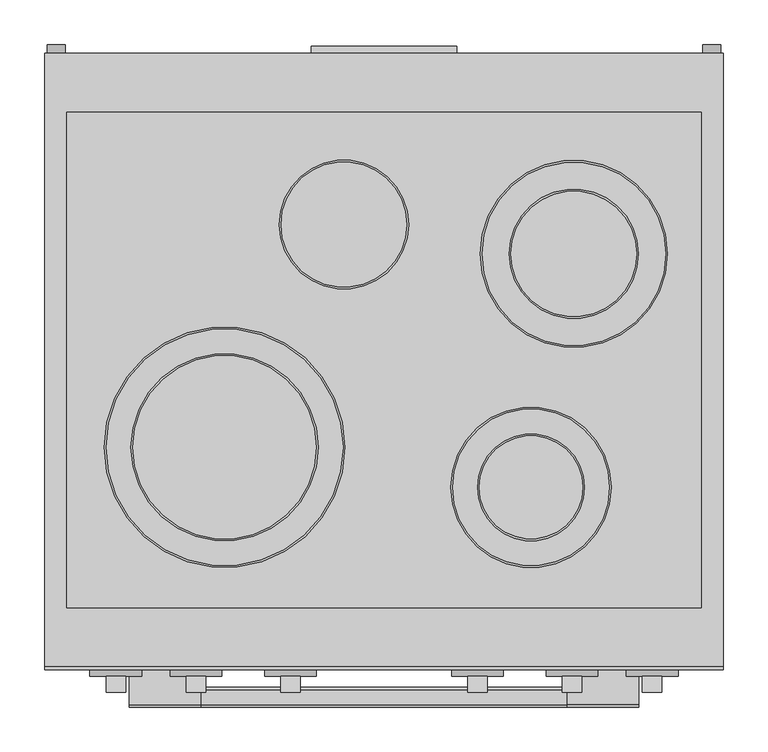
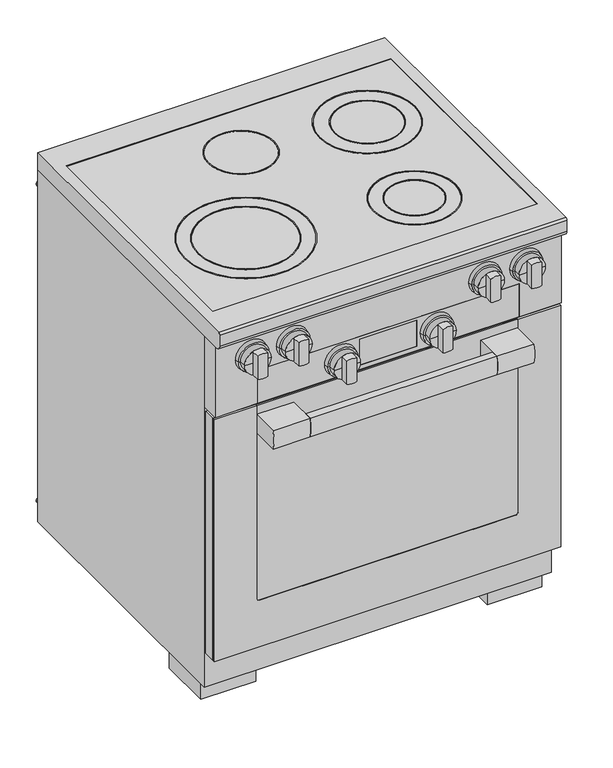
"""IFC4 building model written with IfcOpenShell, lengths in millimetres: proxy geometry, 11793350_USA_HR1421-3_EDST-CLST : 25142180_USA_11793350_HR1421-3_EDST-CLST."""

from ifc_helpers import new_model, si_unit, point, frame, frame_2d, origin, origin_with_axes, place, context, project, spatial, polyline, circle_curve, trimmed, segment, composite_curve, outline, extrude, faceted_brep, source, transform, mapped, element, save
from ifc_brep_helpers import plane_surface, cylinder_surface, revolved_surface, advanced_brep


def specialty_equipment_7bc652a0(model_context):
    return source(origin(), model_context, "Body", "SolidModel", [
        extrude(outline(composite_curve([segment(polyline([(-714.0, 624.0), (-731.0, 624.0)]), True, "CONTINUOUS"), segment(trimmed(circle_curve(frame_2d((-655.4583333, 645.5)), 78.5416667), [point((-731.0, 624.0))], [point((-731.0, 667.0))], False, "CARTESIAN"), True, "CONTINUOUS"), segment(polyline([(-731.0, 667.0), (-714.0, 667.0)]), True, "CONTINUOUS"), segment(trimmed(circle_curve(frame_2d((-789.5416667, 645.5)), 78.5416667), [point((-714.0, 667.0))], [point((-714.0, 624.0))], False, "CARTESIAN"), True, "CONTINUOUS")], self_intersect=False)), frame((-205.0, 0.0, 0.0), z_axis=(1.0, 0.0, 0.0), x_axis=(0.0, 1.0, 0.0)), (0.0, 0.0, 1.0), 410.0),
        extrude(outline(composite_curve([segment(polyline([(-731.0, 667.0), (-668.7, 667.0), (-668.7, 624.0), (-731.0, 624.0)]), True, "CONTINUOUS"), segment(trimmed(circle_curve(frame_2d((-655.4583333, 645.5)), 78.5416667), [point((-731.0, 624.0))], [point((-731.0, 667.0))], False, "CARTESIAN"), True, "CONTINUOUS")], self_intersect=False)), frame((205.0, 0.0, 0.0), z_axis=(1.0, 0.0, 0.0), x_axis=(0.0, 1.0, 0.0)), (0.0, 0.0, 1.0), 81.0),
        extrude(outline(composite_curve([segment(polyline([(-668.7, 667.0), (-668.7, 624.0), (-731.0, 624.0)]), True, "CONTINUOUS"), segment(trimmed(circle_curve(frame_2d((-655.4583333, 645.5)), 78.5416667), [point((-731.0, 624.0))], [point((-731.0, 667.0))], False, "CARTESIAN"), True, "CONTINUOUS"), segment(polyline([(-731.0, 667.0), (-668.7, 667.0)]), True, "CONTINUOUS")], self_intersect=False)), frame((-286.0, 0.0, 0.0), z_axis=(1.0, 0.0, 0.0), x_axis=(0.0, 1.0, 0.0)), (0.0, 0.0, 1.0), 81.0),
        extrude(outline(polyline([(-380.0, -638.0), (380.0, -638.0), (380.0, -664.7), (-380.0, -664.7), (-380.0, -638.0)])), frame((0.0, 0.0, 127.0), z_axis=(0.0, 0.0, 1.0), x_axis=(1.0, 0.0, 0.0)), (0.0, 0.0, 1.0), 561.0),
        extrude(outline(polyline([(-379.0, -664.7), (379.0, -664.7), (379.0, -668.7), (-379.0, -668.7), (-379.0, -664.7)])), frame((0.0, 0.0, 128.0), z_axis=(0.0, 0.0, 1.0), x_axis=(1.0, 0.0, 0.0)), (0.0, 0.0, 1.0), 559.0),
        advanced_brep(
        [(287.0, -664.7, 688.0), (380.0, -664.7, 688.0), (380.0, -664.7, 127.0), (-380.0, -664.7, 127.0), (-380.0, -664.7, 688.0), (-287.0, -664.7, 688.0), (-287.0, -664.7, 687.0), (-379.0, -664.7, 687.0), (-379.0, -664.7, 128.0), (379.0, -664.7, 128.0), (379.0, -664.7, 687.0), (287.0, -664.7, 687.0), (-287.0, -670.0, 688.0), (-380.0, -670.0, 688.0), (-380.0, -670.0, 127.0), (380.0, -670.0, 127.0), (380.0, -670.0, 688.0), (287.0, -670.0, 688.0), (287.0, -670.0, 241.0), (281.0, -670.0, 235.0), (-281.0, -670.0, 235.0), (-287.0, -670.0, 241.0), (-287.0, -668.7, 241.0), (-287.0, -668.7, 687.0), (281.0, -668.7, 235.0), (-281.0, -668.7, 235.0), (287.0, -668.7, 687.0), (287.0, -668.7, 241.0), (379.0, -668.7, 687.0), (379.0, -668.7, 128.0), (-379.0, -668.7, 128.0), (-379.0, -668.7, 687.0)],
        [
            (0, 1),
            (1, 2),
            (2, 3),
            (3, 4),
            (4, 5),
            (5, 6),
            (6, 7),
            (7, 8),
            (8, 9),
            (9, 10),
            (10, 11),
            (11, 0),
            (12, 13),
            (13, 14),
            (14, 15),
            (15, 16),
            (16, 17),
            (17, 18),
            (18, 19, circle_curve(frame((281.0, -670.0, 241.0), z_axis=(0.0, 1.0, 0.0), x_axis=(-1.0, 0.0, 0.0)), 6.0)),
            (19, 20),
            (20, 21, circle_curve(frame((-281.0, -670.0, 241.0), z_axis=(0.0, 1.0, 0.0), x_axis=(-1.0, 0.0, 0.0)), 6.0)),
            (21, 12),
            (21, 22),
            (22, 23),
            (23, 6),
            (5, 12),
            (19, 24),
            (24, 25),
            (25, 20),
            (17, 0),
            (11, 26),
            (26, 27),
            (27, 18),
            (16, 1),
            (15, 2),
            (14, 3),
            (13, 4),
            (25, 22, circle_curve(frame((-281.0, -668.7, 241.0), z_axis=(0.0, 1.0, 0.0), x_axis=(-1.0, 0.0, 0.0)), 6.0)),
            (27, 24, circle_curve(frame((281.0, -668.7, 241.0), z_axis=(0.0, 1.0, 0.0), x_axis=(-1.0, 0.0, 0.0)), 6.0)),
            (28, 29),
            (29, 30),
            (30, 31),
            (31, 23),
            (26, 28),
            (28, 10),
            (9, 29),
            (8, 30),
            (7, 31),
        ],
        [
            plane_surface(frame((-287.0, -664.7, 241.0), z_axis=(0.0, 1.0, 0.0), x_axis=(0.0, 0.0, -1.0))),
            plane_surface(frame((-287.0, -670.0, 241.0), z_axis=(0.0, -1.0, 0.0), x_axis=(0.0, 0.0, 1.0))),
            plane_surface(frame((-287.0, -664.7, 688.0), z_axis=(1.0, 0.0, 0.0), x_axis=(0.0, -1.0, 0.0))),
            plane_surface(frame((-281.0, -664.7, 235.0), z_axis=(0.0, 0.0, 1.0), x_axis=(0.0, -1.0, 0.0))),
            plane_surface(frame((287.0, -664.7, 241.0), z_axis=(-1.0, 0.0, 0.0), x_axis=(0.0, -1.0, 0.0))),
            plane_surface(frame((287.0, -664.7, 688.0), z_axis=(0.0, 0.0, 1.0), x_axis=(0.0, -1.0, 0.0))),
            plane_surface(frame((380.0, -664.7, 688.0), z_axis=(1.0, 0.0, 0.0), x_axis=(0.0, -1.0, 0.0))),
            plane_surface(frame((380.0, -664.7, 127.0), z_axis=(0.0, 0.0, -1.0), x_axis=(0.0, -1.0, 0.0))),
            plane_surface(frame((-380.0, -664.7, 127.0), z_axis=(-1.0, 0.0, 0.0), x_axis=(0.0, -1.0, 0.0))),
            plane_surface(frame((-380.0, -664.7, 688.0), z_axis=(0.0, 0.0, 1.0), x_axis=(0.0, -1.0, 0.0))),
            revolved_surface(polyline([(-287.0, -670.0, 241.0), (-287.0, -668.7, 241.0)]), (-281.0, -670.0, 241.0), (0.0, -1.0, 0.0)),
            revolved_surface(polyline([(275.0, -670.0, 241.0), (275.0, -668.7, 241.0)]), (281.0, -670.0, 241.0), (0.0, -1.0, 0.0)),
            plane_surface(frame((379.0, -668.7, 687.0), z_axis=(0.0, 1.0, 0.0), x_axis=(0.0, 0.0, 1.0))),
            plane_surface(frame((379.0, -664.7, 687.0), z_axis=(-1.0, 0.0, 0.0), x_axis=(0.0, -1.0, 0.0))),
            plane_surface(frame((379.0, -664.7, 128.0), z_axis=(0.0, 0.0, 1.0), x_axis=(0.0, -1.0, 0.0))),
            plane_surface(frame((-379.0, -664.7, 128.0), z_axis=(1.0, 0.0, 0.0), x_axis=(0.0, -1.0, 0.0))),
            plane_surface(frame((-379.0, -664.7, 687.0), z_axis=(0.0, 0.0, -1.0), x_axis=(0.0, -1.0, 0.0))),
        ],
        [
            (0, [[1, 2, 3, 4, 5, 6, 7, 8, 9, 10, 11, 12]]),
            (1, [[13, 14, 15, 16, 17, 18, 19, 20, 21, 22]]),
            (2, [[-22, 23, 24, 25, -6, 26]]),
            (3, [[-20, 27, 28, 29]]),
            (4, [[-18, 30, -12, 31, 32, 33]]),
            (5, [[-1, -30, -17, 34]]),
            (6, [[-2, -34, -16, 35]]),
            (7, [[-3, -35, -15, 36]]),
            (8, [[-4, -36, -14, 37]]),
            (9, [[-5, -37, -13, -26]]),
            (10, [[-21, -29, 38, -23]]),
            (11, [[-19, -33, 39, -27]]),
            (12, [[40, 41, 42, 43, -24, -38, -28, -39, -32, 44]]),
            (13, [[-40, 45, -10, 46]]),
            (14, [[-41, -46, -9, 47]]),
            (15, [[-42, -47, -8, 48]]),
            (16, [[-45, -44, -31, -11]]),
            (16, [[-48, -7, -25, -43]]),
        ],
    ),
        extrude(outline(polyline([(-351.0, -617.0), (351.0, -617.0), (351.0, -638.0), (-351.0, -638.0), (-351.0, -617.0)])), frame((0.0, 0.0, 133.0), z_axis=(0.0, 0.0, 1.0), x_axis=(1.0, 0.0, 0.0)), (0.0, 0.0, 1.0), 550.0),
        extrude(outline(polyline([(356.0, -66.0), (356.0, -622.0), (-356.0, -622.0), (-356.0, -66.0), (356.0, -66.0)])), frame((0.0, 0.0, 896.4), z_axis=(0.0, 0.0, 1.0), x_axis=(1.0, 0.0, 0.0)), (0.0, 0.0, 1.0), 4.0),
        advanced_brep(
        [(381.0, 0.0, 902.0), (381.0, -688.0, 902.0), (381.0, -692.0, 898.0), (381.0, -692.0, 872.0), (381.0, -682.0, 862.0), (381.0, 0.0, 862.0), (-381.0, 0.0, 902.0), (-381.0, 0.0, 862.0), (-381.0, -682.0, 862.0), (-381.0, -692.0, 872.0), (-381.0, -692.0, 898.0), (-381.0, -688.0, 902.0), (-356.0, -66.0, 902.0), (356.0, -66.0, 902.0), (356.0, -622.0, 902.0), (-356.0, -622.0, 902.0), (356.0, -66.0, 896.4), (-356.0, -66.0, 896.4), (-356.0, -622.0, 896.4), (356.0, -622.0, 896.4)],
        [
            (0, 1),
            (1, 2, circle_curve(frame((381.0, -688.0, 898.0), z_axis=(1.0, 0.0, 0.0), x_axis=(0.0, 0.0, 1.0)), 4.0)),
            (2, 3),
            (3, 4, circle_curve(frame((381.0, -682.0, 872.0), z_axis=(1.0, 0.0, 0.0), x_axis=(0.0, 0.0, 1.0)), 10.0)),
            (4, 5),
            (5, 0),
            (6, 7),
            (7, 8),
            (8, 9, circle_curve(frame((-381.0, -682.0, 872.0), z_axis=(-1.0, 0.0, 0.0), x_axis=(0.0, 0.0, 1.0)), 10.0)),
            (9, 10),
            (10, 11, circle_curve(frame((-381.0, -688.0, 898.0), z_axis=(-1.0, 0.0, 0.0), x_axis=(0.0, 0.0, 1.0)), 4.0)),
            (11, 6),
            (0, 6),
            (11, 1),
            (12, 13),
            (13, 14),
            (14, 15),
            (15, 12),
            (10, 2),
            (9, 3),
            (8, 4),
            (7, 5),
            (16, 17),
            (17, 18),
            (18, 19),
            (19, 16),
            (16, 13),
            (12, 17),
            (15, 18),
            (14, 19),
        ],
        [
            plane_surface(frame((381.0, -688.0, 902.0), z_axis=(1.0, 0.0, 0.0), x_axis=(0.0, -1.0, 0.0))),
            plane_surface(frame((-381.0, -688.0, 902.0), z_axis=(-1.0, 0.0, 0.0), x_axis=(0.0, 1.0, 0.0))),
            plane_surface(frame((381.0, 0.0, 902.0), z_axis=(0.0, 0.0, 1.0), x_axis=(-1.0, 0.0, 0.0))),
            cylinder_surface(frame((-381.0, -688.0, 898.0), z_axis=(1.0, 0.0, 0.0), x_axis=(0.0, 0.0, 1.0)), 4.0),
            plane_surface(frame((381.0, -692.0, 898.0), z_axis=(0.0, -1.0, 0.0), x_axis=(-1.0, 0.0, 0.0))),
            cylinder_surface(frame((-381.0, -682.0, 872.0), z_axis=(1.0, 0.0, 0.0), x_axis=(0.0, 0.0, 1.0)), 10.0),
            plane_surface(frame((381.0, -682.0, 862.0), z_axis=(0.0, 0.0, -1.0), x_axis=(-1.0, 0.0, 0.0))),
            plane_surface(frame((381.0, 0.0, 862.0), z_axis=(0.0, 1.0, 0.0), x_axis=(-1.0, 0.0, 0.0))),
            plane_surface(frame((-356.0, -66.0, 896.4), z_axis=(0.0, 0.0, 1.0), x_axis=(1.0, 0.0, 0.0))),
            plane_surface(frame((356.0, -66.0, 902.0), z_axis=(0.0, -1.0, 0.0), x_axis=(0.0, 0.0, -1.0))),
            plane_surface(frame((-356.0, -66.0, 902.0), z_axis=(1.0, 0.0, 0.0), x_axis=(0.0, 0.0, -1.0))),
            plane_surface(frame((-356.0, -622.0, 902.0), z_axis=(0.0, 1.0, 0.0), x_axis=(0.0, 0.0, -1.0))),
            plane_surface(frame((356.0, -622.0, 902.0), z_axis=(-1.0, 0.0, 0.0), x_axis=(0.0, 0.0, -1.0))),
        ],
        [
            (0, [[1, 2, 3, 4, 5, 6]]),
            (1, [[7, 8, 9, 10, 11, 12]]),
            (2, [[-1, 13, -12, 14], [15, 16, 17, 18]]),
            (3, [[-2, -14, -11, 19]]),
            (4, [[-3, -19, -10, 20]]),
            (5, [[-4, -20, -9, 21]]),
            (6, [[-5, -21, -8, 22]]),
            (7, [[-6, -22, -7, -13]]),
            (8, [[23, 24, 25, 26]]),
            (9, [[-23, 27, -15, 28]]),
            (10, [[-24, -28, -18, 29]]),
            (11, [[-25, -29, -17, 30]]),
            (12, [[-26, -30, -16, -27]]),
        ],
    ),
        extrude(outline(composite_curve([segment(trimmed(circle_curve(frame_2d((-45.0, -192.0)), 72.5), [point((27.5, -192.0))], [point((-117.5, -192.0))], False, "CARTESIAN"), True, "CONTINUOUS"), segment(trimmed(circle_curve(frame_2d((-45.0, -192.0)), 72.5), [point((-117.5, -192.0))], [point((27.5, -192.0))], False, "CARTESIAN"), True, "CONTINUOUS")], self_intersect=False), holes=[composite_curve([segment(trimmed(circle_curve(frame_2d((-45.0, -192.0)), 70.5), [point((25.5, -192.0))], [point((-115.5, -192.0))], True, "CARTESIAN"), True, "CONTINUOUS"), segment(trimmed(circle_curve(frame_2d((-45.0, -192.0)), 70.5), [point((-115.5, -192.0))], [point((25.5, -192.0))], True, "CARTESIAN"), True, "CONTINUOUS")], self_intersect=False)]), frame((0.0, 0.0, 900.4), z_axis=(0.0, 0.0, 1.0), x_axis=(1.0, 0.0, 0.0)), (0.0, 0.0, 1.0), 1.0),
        extrude(outline(composite_curve([segment(trimmed(circle_curve(frame_2d((213.0, -225.0)), 105.0), [point((318.0, -225.0))], [point((108.0, -225.0))], False, "CARTESIAN"), True, "CONTINUOUS"), segment(trimmed(circle_curve(frame_2d((213.0, -225.0)), 105.0), [point((108.0, -225.0))], [point((318.0, -225.0))], False, "CARTESIAN"), True, "CONTINUOUS")], self_intersect=False), holes=[composite_curve([segment(trimmed(circle_curve(frame_2d((213.0, -225.0)), 103.0), [point((316.0, -225.0))], [point((110.0, -225.0))], True, "CARTESIAN"), True, "CONTINUOUS"), segment(trimmed(circle_curve(frame_2d((213.0, -225.0)), 103.0), [point((110.0, -225.0))], [point((316.0, -225.0))], True, "CARTESIAN"), True, "CONTINUOUS")], self_intersect=False)]), frame((0.0, 0.0, 900.4), z_axis=(0.0, 0.0, 1.0), x_axis=(1.0, 0.0, 0.0)), (0.0, 0.0, 1.0), 1.0),
        extrude(outline(composite_curve([segment(trimmed(circle_curve(frame_2d((165.0, -487.0)), 90.0), [point((255.0, -487.0))], [point((75.0, -487.0))], False, "CARTESIAN"), True, "CONTINUOUS"), segment(trimmed(circle_curve(frame_2d((165.0, -487.0)), 90.0), [point((75.0, -487.0))], [point((255.0, -487.0))], False, "CARTESIAN"), True, "CONTINUOUS")], self_intersect=False), holes=[composite_curve([segment(trimmed(circle_curve(frame_2d((165.0, -487.0)), 88.0), [point((253.0, -487.0))], [point((77.0, -487.0))], True, "CARTESIAN"), True, "CONTINUOUS"), segment(trimmed(circle_curve(frame_2d((165.0, -487.0)), 88.0), [point((77.0, -487.0))], [point((253.0, -487.0))], True, "CARTESIAN"), True, "CONTINUOUS")], self_intersect=False)]), frame((0.0, 0.0, 900.4), z_axis=(0.0, 0.0, 1.0), x_axis=(1.0, 0.0, 0.0)), (0.0, 0.0, 1.0), 1.0),
        extrude(outline(composite_curve([segment(trimmed(circle_curve(frame_2d((-179.0, -442.0)), 135.0), [point((-44.0, -442.0))], [point((-314.0, -442.0))], False, "CARTESIAN"), True, "CONTINUOUS"), segment(trimmed(circle_curve(frame_2d((-179.0, -442.0)), 135.0), [point((-314.0, -442.0))], [point((-44.0, -442.0))], False, "CARTESIAN"), True, "CONTINUOUS")], self_intersect=False), holes=[composite_curve([segment(trimmed(circle_curve(frame_2d((-179.0, -442.0)), 133.0), [point((-46.0, -442.0))], [point((-312.0, -442.0))], True, "CARTESIAN"), True, "CONTINUOUS"), segment(trimmed(circle_curve(frame_2d((-179.0, -442.0)), 133.0), [point((-312.0, -442.0))], [point((-46.0, -442.0))], True, "CARTESIAN"), True, "CONTINUOUS")], self_intersect=False)]), frame((0.0, 0.0, 900.4), z_axis=(0.0, 0.0, 1.0), x_axis=(1.0, 0.0, 0.0)), (0.0, 0.0, 1.0), 1.0),
        extrude(outline(composite_curve([segment(trimmed(circle_curve(frame_2d((-179.0, -442.0)), 105.0), [point((-74.0, -442.0))], [point((-284.0, -442.0))], False, "CARTESIAN"), True, "CONTINUOUS"), segment(trimmed(circle_curve(frame_2d((-179.0, -442.0)), 105.0), [point((-284.0, -442.0))], [point((-74.0, -442.0))], False, "CARTESIAN"), True, "CONTINUOUS")], self_intersect=False), holes=[composite_curve([segment(trimmed(circle_curve(frame_2d((-179.0, -442.0)), 103.0), [point((-76.0, -442.0))], [point((-282.0, -442.0))], True, "CARTESIAN"), True, "CONTINUOUS"), segment(trimmed(circle_curve(frame_2d((-179.0, -442.0)), 103.0), [point((-282.0, -442.0))], [point((-76.0, -442.0))], True, "CARTESIAN"), True, "CONTINUOUS")], self_intersect=False)]), frame((0.0, 0.0, 900.4), z_axis=(0.0, 0.0, 1.0), x_axis=(1.0, 0.0, 0.0)), (0.0, 0.0, 1.0), 1.0),
        extrude(outline(composite_curve([segment(trimmed(circle_curve(frame_2d((165.0, -487.0)), 60.0), [point((225.0, -487.0))], [point((105.0, -487.0))], False, "CARTESIAN"), True, "CONTINUOUS"), segment(trimmed(circle_curve(frame_2d((165.0, -487.0)), 60.0), [point((105.0, -487.0))], [point((225.0, -487.0))], False, "CARTESIAN"), True, "CONTINUOUS")], self_intersect=False), holes=[composite_curve([segment(trimmed(circle_curve(frame_2d((165.0, -487.0)), 58.0), [point((223.0, -487.0))], [point((107.0, -487.0))], True, "CARTESIAN"), True, "CONTINUOUS"), segment(trimmed(circle_curve(frame_2d((165.0, -487.0)), 58.0), [point((107.0, -487.0))], [point((223.0, -487.0))], True, "CARTESIAN"), True, "CONTINUOUS")], self_intersect=False)]), frame((0.0, 0.0, 900.4), z_axis=(0.0, 0.0, 1.0), x_axis=(1.0, 0.0, 0.0)), (0.0, 0.0, 1.0), 1.0),
        extrude(outline(composite_curve([segment(trimmed(circle_curve(frame_2d((213.0, -225.0)), 72.5), [point((285.5, -225.0))], [point((140.5, -225.0))], False, "CARTESIAN"), True, "CONTINUOUS"), segment(trimmed(circle_curve(frame_2d((213.0, -225.0)), 72.5), [point((140.5, -225.0))], [point((285.5, -225.0))], False, "CARTESIAN"), True, "CONTINUOUS")], self_intersect=False), holes=[composite_curve([segment(trimmed(circle_curve(frame_2d((213.0, -225.0)), 70.5), [point((283.5, -225.0))], [point((142.5, -225.0))], True, "CARTESIAN"), True, "CONTINUOUS"), segment(trimmed(circle_curve(frame_2d((213.0, -225.0)), 70.5), [point((142.5, -225.0))], [point((283.5, -225.0))], True, "CARTESIAN"), True, "CONTINUOUS")], self_intersect=False)]), frame((0.0, 0.0, 900.4), z_axis=(0.0, 0.0, 1.0), x_axis=(1.0, 0.0, 0.0)), (0.0, 0.0, 1.0), 1.0),
        extrude(outline(composite_curve([segment(polyline([(759.8328157, 94.0), (706.1671843, 94.0)]), True, "CONTINUOUS"), segment(trimmed(circle_curve(frame_2d((733.0, 105.0)), 29.0), [point((706.1671843, 94.0))], [point((706.1671843, 116.0))], False, "CARTESIAN"), True, "CONTINUOUS"), segment(polyline([(706.1671843, 116.0), (759.8328157, 116.0)]), True, "CONTINUOUS"), segment(trimmed(circle_curve(frame_2d((733.0, 105.0)), 29.0), [point((759.8328157, 116.0))], [point((759.8328157, 94.0))], False, "CARTESIAN"), True, "CONTINUOUS")], self_intersect=False)), frame((0.0, -717.0, 0.0), z_axis=(0.0, 1.0, 0.0), x_axis=(0.0, 0.0, 1.0)), (0.0, 0.0, 1.0), 18.0),
        extrude(outline(composite_curve([segment(polyline([(759.8328157, -116.0), (706.1671843, -116.0)]), True, "CONTINUOUS"), segment(trimmed(circle_curve(frame_2d((733.0, -105.0)), 29.0), [point((706.1671843, -116.0))], [point((706.1671843, -94.0))], False, "CARTESIAN"), True, "CONTINUOUS"), segment(polyline([(706.1671843, -94.0), (759.8328157, -94.0)]), True, "CONTINUOUS"), segment(trimmed(circle_curve(frame_2d((733.0, -105.0)), 29.0), [point((759.8328157, -94.0))], [point((759.8328157, -116.0))], False, "CARTESIAN"), True, "CONTINUOUS")], self_intersect=False)), frame((0.0, -717.0, 0.0), z_axis=(0.0, 1.0, 0.0), x_axis=(0.0, 0.0, 1.0)), (0.0, 0.0, 1.0), 18.0),
        advanced_brep(
        [(-105.0, -683.0, 733.0), (-76.0, -683.0, 733.0), (-134.0, -683.0, 733.0), (-134.0, -699.0, 733.0), (-76.0, -699.0, 733.0), (-105.0, -699.0, 733.0)],
        [
            (0, 1),
            (1, 2, circle_curve(frame((-105.0, -683.0, 733.0), z_axis=(0.0, 1.0, 0.0), x_axis=(1.0, 0.0, 0.0)), 29.0)),
            (2, 0),
            (2, 1, circle_curve(frame((-105.0, -683.0, 733.0), z_axis=(0.0, 1.0, 0.0), x_axis=(1.0, 0.0, 0.0)), 29.0)),
            (3, 4, circle_curve(frame((-105.0, -699.0, 733.0), z_axis=(0.0, -1.0, 0.0), x_axis=(1.0, 0.0, 0.0)), 29.0)),
            (4, 5),
            (5, 3),
            (4, 3, circle_curve(frame((-105.0, -699.0, 733.0), z_axis=(0.0, -1.0, 0.0), x_axis=(1.0, 0.0, 0.0)), 29.0)),
            (1, 4),
            (3, 2),
        ],
        [
            plane_surface(frame((-105.0, -683.0, 733.0), z_axis=(0.0, 1.0, 0.0), x_axis=(1.0, 0.0, 0.0))),
            plane_surface(frame((-105.0, -699.0, 733.0), z_axis=(0.0, -1.0, 0.0), x_axis=(1.0, 0.0, 0.0))),
            cylinder_surface(frame((-105.0, 751.3738435, 733.0), z_axis=(0.0, 1.0, 0.0), x_axis=(1.0, 0.0, 0.0)), 29.0),
        ],
        [
            (0, [[1, 2, 3]]),
            (0, [[-3, 4, -1]]),
            (1, [[5, 6, 7]]),
            (1, [[8, -7, -6]]),
            (2, [[-2, 9, -5, 10]]),
            (2, [[-4, -10, -8, -9]]),
        ],
    ),
        advanced_brep(
        [(105.0, -683.0, 733.0), (134.0, -683.0, 733.0), (76.0, -683.0, 733.0), (76.0, -699.0, 733.0), (134.0, -699.0, 733.0), (105.0, -699.0, 733.0)],
        [
            (0, 1),
            (1, 2, circle_curve(frame((105.0, -683.0, 733.0), z_axis=(0.0, 1.0, 0.0), x_axis=(1.0, 0.0, 0.0)), 29.0)),
            (2, 0),
            (2, 1, circle_curve(frame((105.0, -683.0, 733.0), z_axis=(0.0, 1.0, 0.0), x_axis=(1.0, 0.0, 0.0)), 29.0)),
            (3, 4, circle_curve(frame((105.0, -699.0, 733.0), z_axis=(0.0, -1.0, 0.0), x_axis=(1.0, 0.0, 0.0)), 29.0)),
            (4, 5),
            (5, 3),
            (4, 3, circle_curve(frame((105.0, -699.0, 733.0), z_axis=(0.0, -1.0, 0.0), x_axis=(1.0, 0.0, 0.0)), 29.0)),
            (1, 4),
            (3, 2),
        ],
        [
            plane_surface(frame((105.0, -683.0, 733.0), z_axis=(0.0, 1.0, 0.0), x_axis=(1.0, 0.0, 0.0))),
            plane_surface(frame((105.0, -699.0, 733.0), z_axis=(0.0, -1.0, 0.0), x_axis=(1.0, 0.0, 0.0))),
            cylinder_surface(frame((105.0, 751.3738435, 733.0), z_axis=(0.0, 1.0, 0.0), x_axis=(1.0, 0.0, 0.0)), 29.0),
        ],
        [
            (0, [[1, 2, 3]]),
            (0, [[-3, 4, -1]]),
            (1, [[5, 6, 7]]),
            (1, [[8, -7, -6]]),
            (2, [[-2, 9, -5, 10]]),
            (2, [[-4, -10, -8, -9]]),
        ],
    ),
        extrude(outline(composite_curve([segment(polyline([(839.8328157, -312.0), (786.1671843, -312.0)]), True, "CONTINUOUS"), segment(trimmed(circle_curve(frame_2d((813.0, -301.0)), 29.0), [point((786.1671843, -312.0))], [point((786.1671843, -290.0))], False, "CARTESIAN"), True, "CONTINUOUS"), segment(polyline([(786.1671843, -290.0), (839.8328157, -290.0)]), True, "CONTINUOUS"), segment(trimmed(circle_curve(frame_2d((813.0, -301.0)), 29.0), [point((839.8328157, -290.0))], [point((839.8328157, -312.0))], False, "CARTESIAN"), True, "CONTINUOUS")], self_intersect=False)), frame((0.0, -717.0, 0.0), z_axis=(0.0, 1.0, 0.0), x_axis=(0.0, 0.0, 1.0)), (0.0, 0.0, 1.0), 18.0),
        extrude(outline(composite_curve([segment(polyline([(839.8328157, -222.0), (786.1671843, -222.0)]), True, "CONTINUOUS"), segment(trimmed(circle_curve(frame_2d((813.0, -211.0)), 29.0), [point((786.1671843, -222.0))], [point((786.1671843, -200.0))], False, "CARTESIAN"), True, "CONTINUOUS"), segment(polyline([(786.1671843, -200.0), (839.8328157, -200.0)]), True, "CONTINUOUS"), segment(trimmed(circle_curve(frame_2d((813.0, -211.0)), 29.0), [point((839.8328157, -200.0))], [point((839.8328157, -222.0))], False, "CARTESIAN"), True, "CONTINUOUS")], self_intersect=False)), frame((0.0, -717.0, 0.0), z_axis=(0.0, 1.0, 0.0), x_axis=(0.0, 0.0, 1.0)), (0.0, 0.0, 1.0), 18.0),
        extrude(outline(composite_curve([segment(trimmed(circle_curve(frame_2d((813.0, 211.0)), 29.0), [point((786.1671843, 200.0))], [point((786.1671843, 222.0))], False, "CARTESIAN"), True, "CONTINUOUS"), segment(polyline([(786.1671843, 222.0), (839.8328157, 222.0)]), True, "CONTINUOUS"), segment(trimmed(circle_curve(frame_2d((813.0, 211.0)), 29.0), [point((839.8328157, 222.0))], [point((839.8328157, 200.0))], False, "CARTESIAN"), True, "CONTINUOUS"), segment(polyline([(839.8328157, 200.0), (786.1671843, 200.0)]), True, "CONTINUOUS")], self_intersect=False)), frame((0.0, -717.0, 0.0), z_axis=(0.0, 1.0, 0.0), x_axis=(0.0, 0.0, 1.0)), (0.0, 0.0, 1.0), 18.0),
        advanced_brep(
        [(-301.0, -683.0, 813.0), (-272.0, -683.0, 813.0), (-330.0, -683.0, 813.0), (-330.0, -699.0, 813.0), (-272.0, -699.0, 813.0), (-301.0, -699.0, 813.0)],
        [
            (0, 1),
            (1, 2, circle_curve(frame((-301.0, -683.0, 813.0), z_axis=(0.0, 1.0, 0.0), x_axis=(1.0, 0.0, 0.0)), 29.0)),
            (2, 0),
            (2, 1, circle_curve(frame((-301.0, -683.0, 813.0), z_axis=(0.0, 1.0, 0.0), x_axis=(1.0, 0.0, 0.0)), 29.0)),
            (3, 4, circle_curve(frame((-301.0, -699.0, 813.0), z_axis=(0.0, -1.0, 0.0), x_axis=(1.0, 0.0, 0.0)), 29.0)),
            (4, 5),
            (5, 3),
            (4, 3, circle_curve(frame((-301.0, -699.0, 813.0), z_axis=(0.0, -1.0, 0.0), x_axis=(1.0, 0.0, 0.0)), 29.0)),
            (1, 4),
            (3, 2),
        ],
        [
            plane_surface(frame((-301.0, -683.0, 813.0), z_axis=(0.0, 1.0, 0.0), x_axis=(1.0, 0.0, 0.0))),
            plane_surface(frame((-301.0, -699.0, 813.0), z_axis=(0.0, -1.0, 0.0), x_axis=(1.0, 0.0, 0.0))),
            cylinder_surface(frame((-301.0, 751.3738435, 813.0), z_axis=(0.0, 1.0, 0.0), x_axis=(1.0, 0.0, 0.0)), 29.0),
        ],
        [
            (0, [[1, 2, 3]]),
            (0, [[-3, 4, -1]]),
            (1, [[5, 6, 7]]),
            (1, [[8, -7, -6]]),
            (2, [[-2, 9, -5, 10]]),
            (2, [[-4, -10, -8, -9]]),
        ],
    ),
        advanced_brep(
        [(-211.0, -683.0, 813.0), (-182.0, -683.0, 813.0), (-240.0, -683.0, 813.0), (-240.0, -699.0, 813.0), (-182.0, -699.0, 813.0), (-211.0, -699.0, 813.0)],
        [
            (0, 1),
            (1, 2, circle_curve(frame((-211.0, -683.0, 813.0), z_axis=(0.0, 1.0, 0.0), x_axis=(1.0, 0.0, 0.0)), 29.0)),
            (2, 0),
            (2, 1, circle_curve(frame((-211.0, -683.0, 813.0), z_axis=(0.0, 1.0, 0.0), x_axis=(1.0, 0.0, 0.0)), 29.0)),
            (3, 4, circle_curve(frame((-211.0, -699.0, 813.0), z_axis=(0.0, -1.0, 0.0), x_axis=(1.0, 0.0, 0.0)), 29.0)),
            (4, 5),
            (5, 3),
            (4, 3, circle_curve(frame((-211.0, -699.0, 813.0), z_axis=(0.0, -1.0, 0.0), x_axis=(1.0, 0.0, 0.0)), 29.0)),
            (1, 4),
            (3, 2),
        ],
        [
            plane_surface(frame((-211.0, -683.0, 813.0), z_axis=(0.0, 1.0, 0.0), x_axis=(1.0, 0.0, 0.0))),
            plane_surface(frame((-211.0, -699.0, 813.0), z_axis=(0.0, -1.0, 0.0), x_axis=(1.0, 0.0, 0.0))),
            cylinder_surface(frame((-211.0, 751.3738435, 813.0), z_axis=(0.0, 1.0, 0.0), x_axis=(1.0, 0.0, 0.0)), 29.0),
        ],
        [
            (0, [[1, 2, 3]]),
            (0, [[-3, 4, -1]]),
            (1, [[5, 6, 7]]),
            (1, [[8, -7, -6]]),
            (2, [[-2, 9, -5, 10]]),
            (2, [[-4, -10, -8, -9]]),
        ],
    ),
        advanced_brep(
        [(211.0, -683.0, 813.0), (240.0, -683.0, 813.0), (182.0, -683.0, 813.0), (182.0, -699.0, 813.0), (240.0, -699.0, 813.0), (211.0, -699.0, 813.0)],
        [
            (0, 1),
            (1, 2, circle_curve(frame((211.0, -683.0, 813.0), z_axis=(0.0, 1.0, 0.0), x_axis=(1.0, 0.0, 0.0)), 29.0)),
            (2, 0),
            (2, 1, circle_curve(frame((211.0, -683.0, 813.0), z_axis=(0.0, 1.0, 0.0), x_axis=(1.0, 0.0, 0.0)), 29.0)),
            (3, 4, circle_curve(frame((211.0, -699.0, 813.0), z_axis=(0.0, -1.0, 0.0), x_axis=(1.0, 0.0, 0.0)), 29.0)),
            (4, 5),
            (5, 3),
            (4, 3, circle_curve(frame((211.0, -699.0, 813.0), z_axis=(0.0, -1.0, 0.0), x_axis=(1.0, 0.0, 0.0)), 29.0)),
            (1, 4),
            (3, 2),
        ],
        [
            plane_surface(frame((211.0, -683.0, 813.0), z_axis=(0.0, 1.0, 0.0), x_axis=(1.0, 0.0, 0.0))),
            plane_surface(frame((211.0, -699.0, 813.0), z_axis=(0.0, -1.0, 0.0), x_axis=(1.0, 0.0, 0.0))),
            cylinder_surface(frame((211.0, 751.3738435, 813.0), z_axis=(0.0, 1.0, 0.0), x_axis=(1.0, 0.0, 0.0)), 29.0),
        ],
        [
            (0, [[1, 2, 3]]),
            (0, [[-3, 4, -1]]),
            (1, [[5, 6, 7]]),
            (1, [[8, -7, -6]]),
            (2, [[-2, 9, -5, 10]]),
            (2, [[-4, -10, -8, -9]]),
        ],
    ),
        extrude(outline(composite_curve([segment(polyline([(786.1671843, 312.0), (839.8328157, 312.0)]), True, "CONTINUOUS"), segment(trimmed(circle_curve(frame_2d((813.0, 301.0)), 29.0), [point((839.8328157, 312.0))], [point((839.8328157, 290.0))], False, "CARTESIAN"), True, "CONTINUOUS"), segment(polyline([(839.8328157, 290.0), (786.1671843, 290.0)]), True, "CONTINUOUS"), segment(trimmed(circle_curve(frame_2d((813.0, 301.0)), 29.0), [point((786.1671843, 290.0))], [point((786.1671843, 312.0))], False, "CARTESIAN"), True, "CONTINUOUS")], self_intersect=False)), frame((0.0, -717.0, 0.0), z_axis=(0.0, 1.0, 0.0), x_axis=(0.0, 0.0, 1.0)), (0.0, 0.0, 1.0), 18.0),
        advanced_brep(
        [(301.0, -683.0, 813.0), (330.0, -683.0, 813.0), (272.0, -683.0, 813.0), (272.0, -699.0, 813.0), (330.0, -699.0, 813.0), (301.0, -699.0, 813.0)],
        [
            (0, 1),
            (1, 2, circle_curve(frame((301.0, -683.0, 813.0), z_axis=(0.0, 1.0, 0.0), x_axis=(1.0, 0.0, 0.0)), 29.0)),
            (2, 0),
            (2, 1, circle_curve(frame((301.0, -683.0, 813.0), z_axis=(0.0, 1.0, 0.0), x_axis=(1.0, 0.0, 0.0)), 29.0)),
            (3, 4, circle_curve(frame((301.0, -699.0, 813.0), z_axis=(0.0, -1.0, 0.0), x_axis=(1.0, 0.0, 0.0)), 29.0)),
            (4, 5),
            (5, 3),
            (4, 3, circle_curve(frame((301.0, -699.0, 813.0), z_axis=(0.0, -1.0, 0.0), x_axis=(1.0, 0.0, 0.0)), 29.0)),
            (1, 4),
            (3, 2),
        ],
        [
            plane_surface(frame((301.0, -683.0, 813.0), z_axis=(0.0, 1.0, 0.0), x_axis=(1.0, 0.0, 0.0))),
            plane_surface(frame((301.0, -699.0, 813.0), z_axis=(0.0, -1.0, 0.0), x_axis=(1.0, 0.0, 0.0))),
            cylinder_surface(frame((301.0, 751.3738435, 813.0), z_axis=(0.0, 1.0, 0.0), x_axis=(1.0, 0.0, 0.0)), 29.0),
        ],
        [
            (0, [[1, 2, 3]]),
            (0, [[-3, 4, -1]]),
            (1, [[5, 6, 7]]),
            (1, [[8, -7, -6]]),
            (2, [[-2, 9, -5, 10]]),
            (2, [[-4, -10, -8, -9]]),
        ],
    ),
        extrude(outline(polyline([(-62.5, -671.0), (62.5, -671.0), (62.5, -672.0), (-62.5, -672.0), (-62.5, -671.0)])), frame((0.0, 0.0, 705.0), z_axis=(0.0, 0.0, 1.0), x_axis=(1.0, 0.0, 0.0)), (0.0, 0.0, 1.0), 60.0),
        extrude(outline(polyline([(772.0, 287.0), (772.0, -287.0), (695.0, -287.0), (695.0, 287.0), (772.0, 287.0)]), holes=[polyline([(765.0, 62.5), (705.0, 62.5), (705.0, -62.5), (765.0, -62.5), (765.0, 62.5)])]), frame((0.0, -672.5, 0.0), z_axis=(0.0, 1.0, 0.0), x_axis=(0.0, 0.0, 1.0)), (0.0, 0.0, 1.0), 5.8),
        faceted_brep([(380.0, -673.0, 862.0), (-380.0, -673.0, 862.0), (-380.0, -673.0, 695.0), (-287.0, -673.0, 695.0), (-287.0, -673.0, 772.0), (287.0, -673.0, 772.0), (287.0, -673.0, 695.0), (380.0, -673.0, 695.0), (380.0, -633.0, 862.0), (380.0, -633.0, 695.0), (-380.0, -633.0, 695.0), (-380.0, -633.0, 862.0), (287.0, -666.7, 695.0), (-287.0, -666.7, 695.0), (287.0, -666.7, 772.0), (-287.0, -666.7, 772.0)], [[[0, 1, 2, 3, 4, 5, 6, 7]], [[8, 9, 10, 11]], [[0, 7, 9, 8]], [[10, 9, 7, 6, 12, 13, 3, 2]], [[2, 1, 11, 10]], [[1, 0, 8, 11]], [[14, 15, 13, 12]], [[14, 12, 6, 5]], [[13, 15, 4, 3]], [[15, 14, 5, 4]]]),
        advanced_brep(
        [(-138.2367302, -683.0, 733.0), (-71.7632698, -683.0, 733.0), (-105.0, -683.0, 733.0), (-140.0, -673.0, 733.0), (-70.0, -673.0, 733.0), (-105.0, -673.0, 733.0)],
        [
            (0, 1, circle_curve(frame((-105.0, -683.0, 733.0), z_axis=(0.0, -1.0, 0.0), x_axis=(1.0, 0.0, 0.0)), 33.2367302)),
            (1, 2),
            (2, 0),
            (1, 0, circle_curve(frame((-105.0, -683.0, 733.0), z_axis=(0.0, -1.0, 0.0), x_axis=(1.0, 0.0, 0.0)), 33.2367302)),
            (3, 4, circle_curve(frame((-105.0, -673.0, 733.0), z_axis=(0.0, -1.0, 0.0), x_axis=(1.0, 0.0, 0.0)), 35.0)),
            (4, 1),
            (0, 3),
            (4, 3, circle_curve(frame((-105.0, -673.0, 733.0), z_axis=(0.0, -1.0, 0.0), x_axis=(1.0, 0.0, 0.0)), 35.0)),
            (5, 4),
            (3, 5),
        ],
        [
            plane_surface(frame((-105.0, -683.0, 733.0), z_axis=(0.0, -1.0, 0.0), x_axis=(1.0, 0.0, 0.0))),
            revolved_surface(polyline([(-71.7632698, -683.0, 733.0), (-70.0, -673.0, 733.0)]), (-105.0, 751.3738435, 733.0), (0.0, 1.0, 0.0)),
            plane_surface(frame((-105.0, -673.0, 733.0), z_axis=(0.0, 1.0, 0.0), x_axis=(1.0, 0.0, 0.0))),
        ],
        [
            (0, [[1, 2, 3]]),
            (0, [[4, -3, -2]]),
            (1, [[5, 6, -1, 7]]),
            (1, [[8, -7, -4, -6]]),
            (2, [[9, -5, 10]]),
            (2, [[-10, -8, -9]]),
        ],
    ),
        advanced_brep(
        [(71.7632698, -683.0, 733.0), (138.2367302, -683.0, 733.0), (105.0, -683.0, 733.0), (70.0, -673.0, 733.0), (140.0, -673.0, 733.0), (105.0, -673.0, 733.0)],
        [
            (0, 1, circle_curve(frame((105.0, -683.0, 733.0), z_axis=(0.0, -1.0, 0.0), x_axis=(1.0, 0.0, 0.0)), 33.2367302)),
            (1, 2),
            (2, 0),
            (1, 0, circle_curve(frame((105.0, -683.0, 733.0), z_axis=(0.0, -1.0, 0.0), x_axis=(1.0, 0.0, 0.0)), 33.2367302)),
            (3, 4, circle_curve(frame((105.0, -673.0, 733.0), z_axis=(0.0, -1.0, 0.0), x_axis=(1.0, 0.0, 0.0)), 35.0)),
            (4, 1),
            (0, 3),
            (4, 3, circle_curve(frame((105.0, -673.0, 733.0), z_axis=(0.0, -1.0, 0.0), x_axis=(1.0, 0.0, 0.0)), 35.0)),
            (5, 4),
            (3, 5),
        ],
        [
            plane_surface(frame((105.0, -683.0, 733.0), z_axis=(0.0, -1.0, 0.0), x_axis=(1.0, 0.0, 0.0))),
            revolved_surface(polyline([(138.2367302, -683.0, 733.0), (140.0, -673.0, 733.0)]), (105.0, 751.3738435, 733.0), (0.0, 1.0, 0.0)),
            plane_surface(frame((105.0, -673.0, 733.0), z_axis=(0.0, 1.0, 0.0), x_axis=(1.0, 0.0, 0.0))),
        ],
        [
            (0, [[1, 2, 3]]),
            (0, [[4, -3, -2]]),
            (1, [[5, 6, -1, 7]]),
            (1, [[8, -7, -4, -6]]),
            (2, [[9, -5, 10]]),
            (2, [[-10, -8, -9]]),
        ],
    ),
        advanced_brep(
        [(-334.2367302, -683.0, 813.0), (-267.7632698, -683.0, 813.0), (-301.0, -683.0, 813.0), (-336.0, -673.0, 813.0), (-266.0, -673.0, 813.0), (-301.0, -673.0, 813.0)],
        [
            (0, 1, circle_curve(frame((-301.0, -683.0, 813.0), z_axis=(0.0, -1.0, 0.0), x_axis=(1.0, 0.0, 0.0)), 33.2367302)),
            (1, 2),
            (2, 0),
            (1, 0, circle_curve(frame((-301.0, -683.0, 813.0), z_axis=(0.0, -1.0, 0.0), x_axis=(1.0, 0.0, 0.0)), 33.2367302)),
            (3, 4, circle_curve(frame((-301.0, -673.0, 813.0), z_axis=(0.0, -1.0, 0.0), x_axis=(1.0, 0.0, 0.0)), 35.0)),
            (4, 1),
            (0, 3),
            (4, 3, circle_curve(frame((-301.0, -673.0, 813.0), z_axis=(0.0, -1.0, 0.0), x_axis=(1.0, 0.0, 0.0)), 35.0)),
            (5, 4),
            (3, 5),
        ],
        [
            plane_surface(frame((-301.0, -683.0, 813.0), z_axis=(0.0, -1.0, 0.0), x_axis=(1.0, 0.0, 0.0))),
            revolved_surface(polyline([(-267.7632698, -683.0, 813.0), (-266.0, -673.0, 813.0)]), (-301.0, 751.3738435, 813.0), (0.0, 1.0, 0.0)),
            plane_surface(frame((-301.0, -673.0, 813.0), z_axis=(0.0, 1.0, 0.0), x_axis=(1.0, 0.0, 0.0))),
        ],
        [
            (0, [[1, 2, 3]]),
            (0, [[4, -3, -2]]),
            (1, [[5, 6, -1, 7]]),
            (1, [[8, -7, -4, -6]]),
            (2, [[9, -5, 10]]),
            (2, [[-10, -8, -9]]),
        ],
    ),
        advanced_brep(
        [(-244.2367302, -683.0, 813.0), (-177.7632698, -683.0, 813.0), (-211.0, -683.0, 813.0), (-246.0, -673.0, 813.0), (-176.0, -673.0, 813.0), (-211.0, -673.0, 813.0)],
        [
            (0, 1, circle_curve(frame((-211.0, -683.0, 813.0), z_axis=(0.0, -1.0, 0.0), x_axis=(1.0, 0.0, 0.0)), 33.2367302)),
            (1, 2),
            (2, 0),
            (1, 0, circle_curve(frame((-211.0, -683.0, 813.0), z_axis=(0.0, -1.0, 0.0), x_axis=(1.0, 0.0, 0.0)), 33.2367302)),
            (3, 4, circle_curve(frame((-211.0, -673.0, 813.0), z_axis=(0.0, -1.0, 0.0), x_axis=(1.0, 0.0, 0.0)), 35.0)),
            (4, 1),
            (0, 3),
            (4, 3, circle_curve(frame((-211.0, -673.0, 813.0), z_axis=(0.0, -1.0, 0.0), x_axis=(1.0, 0.0, 0.0)), 35.0)),
            (5, 4),
            (3, 5),
        ],
        [
            plane_surface(frame((-211.0, -683.0, 813.0), z_axis=(0.0, -1.0, 0.0), x_axis=(1.0, 0.0, 0.0))),
            revolved_surface(polyline([(-177.7632698, -683.0, 813.0), (-176.0, -673.0, 813.0)]), (-211.0, 751.3738435, 813.0), (0.0, 1.0, 0.0)),
            plane_surface(frame((-211.0, -673.0, 813.0), z_axis=(0.0, 1.0, 0.0), x_axis=(1.0, 0.0, 0.0))),
        ],
        [
            (0, [[1, 2, 3]]),
            (0, [[4, -3, -2]]),
            (1, [[5, 6, -1, 7]]),
            (1, [[8, -7, -4, -6]]),
            (2, [[9, -5, 10]]),
            (2, [[-10, -8, -9]]),
        ],
    ),
        advanced_brep(
        [(177.7632698, -683.0, 813.0), (244.2367302, -683.0, 813.0), (211.0, -683.0, 813.0), (176.0, -673.0, 813.0), (246.0, -673.0, 813.0), (211.0, -673.0, 813.0)],
        [
            (0, 1, circle_curve(frame((211.0, -683.0, 813.0), z_axis=(0.0, -1.0, 0.0), x_axis=(1.0, 0.0, 0.0)), 33.2367302)),
            (1, 2),
            (2, 0),
            (1, 0, circle_curve(frame((211.0, -683.0, 813.0), z_axis=(0.0, -1.0, 0.0), x_axis=(1.0, 0.0, 0.0)), 33.2367302)),
            (3, 4, circle_curve(frame((211.0, -673.0, 813.0), z_axis=(0.0, -1.0, 0.0), x_axis=(1.0, 0.0, 0.0)), 35.0)),
            (4, 1),
            (0, 3),
            (4, 3, circle_curve(frame((211.0, -673.0, 813.0), z_axis=(0.0, -1.0, 0.0), x_axis=(1.0, 0.0, 0.0)), 35.0)),
            (5, 4),
            (3, 5),
        ],
        [
            plane_surface(frame((211.0, -683.0, 813.0), z_axis=(0.0, -1.0, 0.0), x_axis=(1.0, 0.0, 0.0))),
            revolved_surface(polyline([(244.2367302, -683.0, 813.0), (246.0, -673.0, 813.0)]), (211.0, 751.3738435, 813.0), (0.0, 1.0, 0.0)),
            plane_surface(frame((211.0, -673.0, 813.0), z_axis=(0.0, 1.0, 0.0), x_axis=(1.0, 0.0, 0.0))),
        ],
        [
            (0, [[1, 2, 3]]),
            (0, [[4, -3, -2]]),
            (1, [[5, 6, -1, 7]]),
            (1, [[8, -7, -4, -6]]),
            (2, [[9, -5, 10]]),
            (2, [[-10, -8, -9]]),
        ],
    ),
        advanced_brep(
        [(267.7632698, -683.0, 813.0), (334.2367302, -683.0, 813.0), (301.0, -683.0, 813.0), (266.0, -673.0, 813.0), (336.0, -673.0, 813.0), (301.0, -673.0, 813.0)],
        [
            (0, 1, circle_curve(frame((301.0, -683.0, 813.0), z_axis=(0.0, -1.0, 0.0), x_axis=(1.0, 0.0, 0.0)), 33.2367302)),
            (1, 2),
            (2, 0),
            (1, 0, circle_curve(frame((301.0, -683.0, 813.0), z_axis=(0.0, -1.0, 0.0), x_axis=(1.0, 0.0, 0.0)), 33.2367302)),
            (3, 4, circle_curve(frame((301.0, -673.0, 813.0), z_axis=(0.0, -1.0, 0.0), x_axis=(1.0, 0.0, 0.0)), 35.0)),
            (4, 1),
            (0, 3),
            (4, 3, circle_curve(frame((301.0, -673.0, 813.0), z_axis=(0.0, -1.0, 0.0), x_axis=(1.0, 0.0, 0.0)), 35.0)),
            (5, 4),
            (3, 5),
        ],
        [
            plane_surface(frame((301.0, -683.0, 813.0), z_axis=(0.0, -1.0, 0.0), x_axis=(1.0, 0.0, 0.0))),
            revolved_surface(polyline([(334.2367302, -683.0, 813.0), (336.0, -673.0, 813.0)]), (301.0, 751.3738435, 813.0), (0.0, 1.0, 0.0)),
            plane_surface(frame((301.0, -673.0, 813.0), z_axis=(0.0, 1.0, 0.0), x_axis=(1.0, 0.0, 0.0))),
        ],
        [
            (0, [[1, 2, 3]]),
            (0, [[4, -3, -2]]),
            (1, [[5, 6, -1, 7]]),
            (1, [[8, -7, -4, -6]]),
            (2, [[9, -5, 10]]),
            (2, [[-10, -8, -9]]),
        ],
    ),
        extrude(outline(composite_curve([segment(trimmed(circle_curve(frame_2d((822.0, 368.0)), 10.0), [point((822.0, 378.0))], [point((822.0, 358.0))], False, "CARTESIAN"), True, "CONTINUOUS"), segment(trimmed(circle_curve(frame_2d((822.0, 368.0)), 10.0), [point((822.0, 358.0))], [point((822.0, 378.0))], False, "CARTESIAN"), True, "CONTINUOUS")], self_intersect=False)), frame((0.0, 0.0, 0.0), z_axis=(0.0, 1.0, 0.0), x_axis=(0.0, 0.0, 1.0)), (0.0, 0.0, 1.0), 10.0),
        extrude(outline(composite_curve([segment(trimmed(circle_curve(frame_2d((87.0, 368.0)), 10.0), [point((87.0, 378.0))], [point((87.0, 358.0))], False, "CARTESIAN"), True, "CONTINUOUS"), segment(trimmed(circle_curve(frame_2d((87.0, 368.0)), 10.0), [point((87.0, 358.0))], [point((87.0, 378.0))], False, "CARTESIAN"), True, "CONTINUOUS")], self_intersect=False)), frame((0.0, 0.0, 0.0), z_axis=(0.0, 1.0, 0.0), x_axis=(0.0, 0.0, 1.0)), (0.0, 0.0, 1.0), 10.0),
        extrude(outline(composite_curve([segment(trimmed(circle_curve(frame_2d((822.0, -368.0)), 10.0), [point((822.0, -358.0))], [point((822.0, -378.0))], False, "CARTESIAN"), True, "CONTINUOUS"), segment(trimmed(circle_curve(frame_2d((822.0, -368.0)), 10.0), [point((822.0, -378.0))], [point((822.0, -358.0))], False, "CARTESIAN"), True, "CONTINUOUS")], self_intersect=False)), frame((0.0, 0.0, 0.0), z_axis=(0.0, 1.0, 0.0), x_axis=(0.0, 0.0, 1.0)), (0.0, 0.0, 1.0), 10.0),
        extrude(outline(composite_curve([segment(trimmed(circle_curve(frame_2d((87.0, -368.0)), 10.0), [point((87.0, -358.0))], [point((87.0, -378.0))], False, "CARTESIAN"), True, "CONTINUOUS"), segment(trimmed(circle_curve(frame_2d((87.0, -368.0)), 10.0), [point((87.0, -378.0))], [point((87.0, -358.0))], False, "CARTESIAN"), True, "CONTINUOUS")], self_intersect=False)), frame((0.0, 0.0, 0.0), z_axis=(0.0, 1.0, 0.0), x_axis=(0.0, 0.0, 1.0)), (0.0, 0.0, 1.0), 10.0),
        extrude(outline(polyline([(-81.5, 8.0), (81.5, 8.0), (81.5, 0.0), (-81.5, 0.0), (-81.5, 8.0)])), frame((0.0, 0.0, 559.0), z_axis=(0.0, 0.0, 1.0), x_axis=(1.0, 0.0, 0.0)), (0.0, 0.0, 1.0), 237.0),
        extrude(outline(composite_curve([segment(trimmed(circle_curve(frame_2d((-152.0, 39.6862697)), 39.6862697), [point((-112.6710759, 45.0))], [point((-191.3289241, 45.0))], False, "CARTESIAN"), True, "CONTINUOUS"), segment(polyline([(-191.3289241, 45.0), (-112.6710759, 45.0)]), True, "CONTINUOUS")], self_intersect=False)), frame((206.0, 0.0, 0.0), z_axis=(1.0, 0.0, 0.0), x_axis=(0.0, 1.0, 0.0)), (0.0, 0.0, 1.0), 28.0),
        faceted_brep([(356.0, -608.0, 695.0), (-356.0, -608.0, 695.0), (-356.0, -608.0, 128.0), (356.0, -608.0, 128.0), (312.0, -608.0, 608.0), (312.0, -608.0, 185.0), (-312.0, -608.0, 185.0), (-312.0, -608.0, 608.0), (356.0, -633.0, 128.0), (356.0, -633.0, 695.0), (-356.0, -633.0, 128.0), (-356.0, -633.0, 695.0), (-381.0, 0.0, 862.0), (-381.0, -633.0, 862.0), (381.0, -633.0, 862.0), (381.0, 0.0, 862.0), (356.0, 0.0, 862.0), (356.0, -23.0, 862.0), (266.0, -23.0, 862.0), (266.0, 0.0, 862.0), (65.0, 0.0, 862.0), (65.0, -23.0, 862.0), (-66.0, -23.0, 862.0), (-66.0, 0.0, 862.0), (381.0, 0.0, 45.0), (381.0, -633.0, 45.0), (-381.0, -633.0, 45.0), (-381.0, 0.0, 45.0), (-356.0, 0.0, 45.0), (-356.0, -75.0, 45.0), (356.0, -75.0, 45.0), (356.0, 0.0, 45.0), (266.0, 0.0, 132.0), (65.0, 0.0, 132.0), (-66.0, 0.0, 132.0), (-270.0, 0.0, 132.0), (-270.0, 0.0, 784.0), (-335.0, 0.0, 784.0), (-335.0, 0.0, 132.0), (-356.0, 0.0, 132.0), (312.0, -173.0, 608.0), (-312.0, -173.0, 608.0), (-312.0, -173.0, 185.0), (312.0, -173.0, 185.0), (-356.0, -75.0, 132.0), (356.0, -75.0, 132.0), (-335.0, -73.0, 132.0), (-270.0, -73.0, 132.0), (-66.0, -23.0, 132.0), (65.0, -23.0, 132.0), (266.0, -23.0, 132.0), (356.0, -23.0, 132.0), (-335.0, -73.0, 784.0), (-270.0, -73.0, 784.0)], [[[0, 1, 2, 3], [4, 5, 6, 7]], [[0, 3, 8, 9]], [[3, 2, 10, 8]], [[2, 1, 11, 10]], [[1, 0, 9, 11]], [[12, 13, 14, 15, 16, 17, 18, 19, 20, 21, 22, 23]], [[24, 25, 26, 27, 28, 29, 30, 31]], [[20, 19, 32, 33]], [[15, 24, 31, 16]], [[27, 12, 23, 34, 35, 36, 37, 38, 39, 28]], [[13, 12, 27, 26]], [[14, 13, 26, 25], [9, 8, 10, 11]], [[15, 14, 25, 24]], [[40, 41, 42, 43]], [[40, 43, 5, 4]], [[43, 42, 6, 5]], [[42, 41, 7, 6]], [[41, 40, 4, 7]], [[44, 45, 30, 29]], [[45, 44, 39, 38, 46, 47, 35, 34, 48, 49, 33, 32, 50, 51]], [[30, 45, 51, 17, 16, 31]], [[39, 44, 29, 28]], [[52, 53, 47, 46]], [[53, 52, 37, 36]], [[53, 36, 35, 47]], [[37, 52, 46, 38]], [[17, 51, 50, 18]], [[21, 49, 48, 22]], [[49, 21, 20, 33]], [[22, 48, 34, 23]], [[18, 50, 32, 19]]]),
        extrude(outline(polyline([(232.4261097, -39.2846028), (225.1553153, -39.2846028), (225.1553153, -38.0259878), (231.1324687, -38.0259878), (231.1324687, -35.0398896), (225.4699511, -35.0398896), (225.4699511, -33.7868997), (231.1324687, -33.7868997), (231.1324687, -30.484481), (225.0234692, -30.484481), (225.0234692, -29.223126), (232.4261097, -29.223126), (232.4261097, -39.2846028)])), frame((0.0, 0.0, 101.0), z_axis=(0.0, 0.0, 1.0), x_axis=(1.0, 0.0, 0.0)), (0.0, 0.0, 1.0), 1.0),
        extrude(outline(polyline([(223.0939455, -39.2781045), (216.9083542, -39.2781045), (216.9083542, -38.0259878), (221.9083542, -38.0259878), (221.9083542, -29.223126), (223.0939455, -29.223126), (223.0939455, -39.2781045)])), frame((0.0, 0.0, 101.0), z_axis=(0.0, 0.0, 1.0), x_axis=(1.0, 0.0, 0.0)), (0.0, 0.0, 1.0), 1.0),
        extrude(outline(composite_curve([segment(trimmed(circle_curve(frame_2d((225.0, -35.0)), 7.5), [point((225.0, -42.5))], [point((225.0, -27.5))], False, "CARTESIAN"), True, "CONTINUOUS"), segment(trimmed(circle_curve(frame_2d((225.0, -35.0)), 7.5), [point((225.0, -27.5))], [point((225.0, -42.5))], False, "CARTESIAN"), True, "CONTINUOUS")], self_intersect=False)), frame((0.0, 0.0, 102.0), z_axis=(0.0, 0.0, 1.0), x_axis=(1.0, 0.0, 0.0)), (0.0, 0.0, 1.0), 30.0),
        extrude(outline(composite_curve([segment(trimmed(circle_curve(frame_2d((-152.0, 39.6862697)), 39.6862697), [point((-112.6710759, 45.0))], [point((-191.3289241, 45.0))], False, "CARTESIAN"), True, "CONTINUOUS"), segment(polyline([(-191.3289241, 45.0), (-112.6710759, 45.0)]), True, "CONTINUOUS")], self_intersect=False)), frame((-234.0, 0.0, 0.0), z_axis=(1.0, 0.0, 0.0), x_axis=(0.0, 1.0, 0.0)), (0.0, 0.0, 1.0), 28.0),
        extrude(outline(polyline([(-254.0, -489.0), (-254.0, -609.0), (-374.0, -609.0), (-374.0, -489.0), (-254.0, -489.0)])), origin_with_axes(), (0.0, 0.0, 1.0), 45.0),
        extrude(outline(polyline([(374.0, -489.0), (374.0, -609.0), (254.0, -609.0), (254.0, -489.0), (374.0, -489.0)])), origin_with_axes(), (0.0, 0.0, 1.0), 45.0),
    ])


if __name__ == "__main__":
    model = new_model("IFC4")
    model_context = context("Model", 3, world=origin())
    ifc_project = project(units=[si_unit("LENGTHUNIT", "METRE", prefix="MILLI")], contexts=[model_context])
    site = spatial("IfcSite", under=ifc_project)
    building = spatial("IfcBuilding", under=site)
    placement = place(None, origin())
    specialty_equipment_shape = specialty_equipment_7bc652a0(model_context)
    element("IfcBuildingElementProxy", 1, Name="11793350_USA_HR1421-3_EDST-CLST : 25142180_USA_11793350_HR1421-3_EDST-CLST", ObjectType="11793350_USA_HR1421-3_EDST-CLST : 25142180_USA_11793350_HR1421-3_EDST-CLST", at=placement, inside=building, context=model_context, shape_type="MappedRepresentation", body=[
        mapped(specialty_equipment_shape, transform((0.0, 0.0, 0.0), x_axis=(1.0, 0.0, 0.0), y_axis=(0.0, 1.0, 0.0), z_axis=(0.0, 0.0, 1.0))),
    ])
    save(model, "model.ifc")
